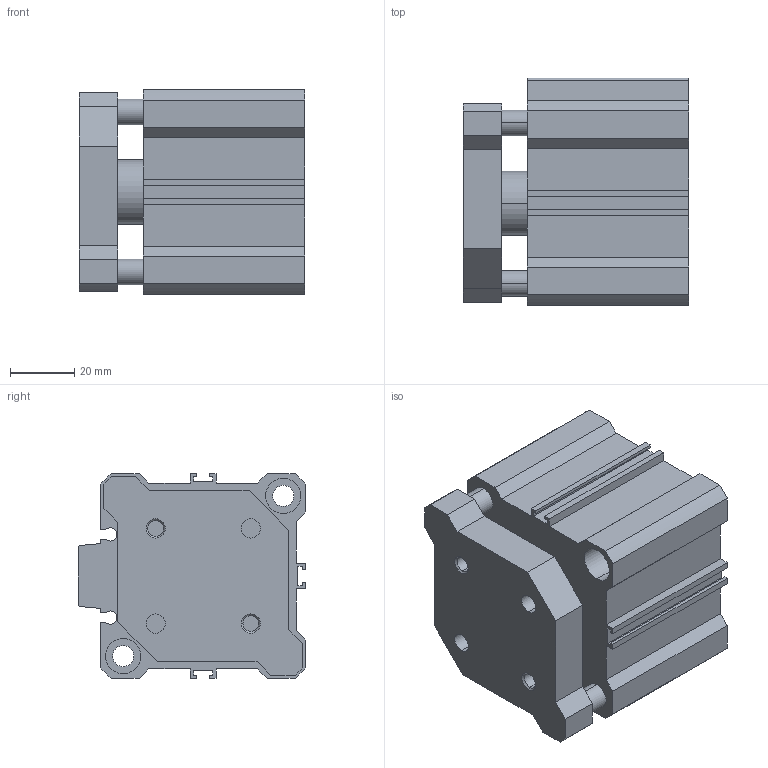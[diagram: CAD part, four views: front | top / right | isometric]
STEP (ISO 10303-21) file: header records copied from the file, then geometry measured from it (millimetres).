
FILE_DESCRIPTION (( 'STEP AP203' ), '1' );
FILE_NAME ('CCMG50-10.STEP', '2020-04-01T18:46:52', ( '' ), ( '' ), 'SwSTEP 2.0', 'SolidWorks 2019', '' );
FILE_SCHEMA (( 'CONFIG_CONTROL_DESIGN' ));
Length unit declared in the file: millimetre
Products named in the file (1): CCMG50-10
Bounding box: 70.5 x 71 x 64 mm (x, y, z)
Volume: 209018.8 mm3; surface area: 53742.1 mm2
Topology: 2 solids, 2 shells, 162 faces, 422 edges, 274 vertices
Faces by surface type: plane 92, cylinder 54, cone 16
Entity records: 5029 total; most frequent: DIRECTION 864, CARTESIAN_POINT 855, ORIENTED_EDGE 836, EDGE_CURVE 418, LINE 298, VECTOR 298, AXIS2_PLACEMENT_3D 283, VERTEX_POINT 274
